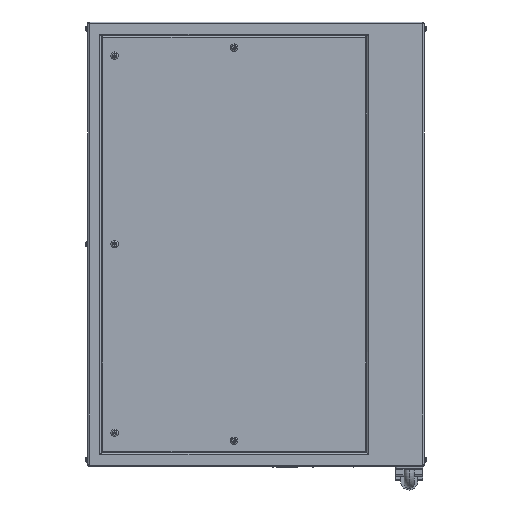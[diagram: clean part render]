
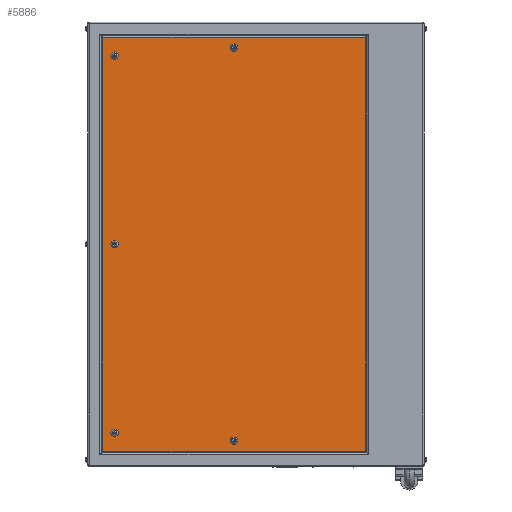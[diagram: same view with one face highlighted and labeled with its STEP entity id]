
A CAD part, left-side view. The second image highlights one B-rep face of the part: STEP entity #5886.
In plain terms, the highlighted planar face has unit normal (-1, 0, 0).
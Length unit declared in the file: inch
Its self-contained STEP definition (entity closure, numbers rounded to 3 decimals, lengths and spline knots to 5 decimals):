
#4 = DIRECTION ( 'NONE',  ( 0., 0., -1. ) ) ;
#709 = CARTESIAN_POINT ( 'NONE',  ( -14., 3.25, -29.74 ) ) ;
#716 = DIRECTION ( 'NONE',  ( 1., 0., 0. ) ) ;
#827 = AXIS2_PLACEMENT_3D ( 'NONE', #23221, #6636, #2305 ) ;
#894 = DIRECTION ( 'NONE',  ( 1., 0., 0. ) ) ;
#1159 = LINE ( 'NONE', #5011, #3837 ) ;
#1249 = CIRCLE ( 'NONE', #827, 0.55 ) ;
#2112 = CARTESIAN_POINT ( 'NONE',  ( -14., 21., -28. ) ) ;
#2305 = DIRECTION ( 'NONE',  ( 0., 0., 1. ) ) ;
#2478 = EDGE_LOOP ( 'NONE', ( #4931, #5821 ) ) ;
#2696 = ORIENTED_EDGE ( 'NONE', *, *, #8051, .T. ) ;
#3025 = AXIS2_PLACEMENT_3D ( 'NONE', #22300, #10832, #5710 ) ;
#3151 = FACE_BOUND ( 'NONE', #19257, .T. ) ;
#3743 = VERTEX_POINT ( 'NONE', #3805 ) ;
#3771 = DIRECTION ( 'NONE',  ( 1., 0., 0. ) ) ;
#3805 = CARTESIAN_POINT ( 'NONE',  ( -14., 3.25, 28.64 ) ) ;
#3816 = EDGE_CURVE ( 'NONE', #15228, #18170, #6371, .T. ) ;
#3837 = VECTOR ( 'NONE', #8798, 39.37008 ) ;
#4029 = DIRECTION ( 'NONE',  ( 1., 0., 0. ) ) ;
#4223 = CARTESIAN_POINT ( 'NONE',  ( -14., -16.24, 30.74 ) ) ;
#4240 = VERTEX_POINT ( 'NONE', #20542 ) ;
#4303 = VERTEX_POINT ( 'NONE', #22442 ) ;
#4458 = EDGE_LOOP ( 'NONE', ( #18200, #5789 ) ) ;
#4514 = CARTESIAN_POINT ( 'NONE',  ( -14., 21., 28. ) ) ;
#4826 = CARTESIAN_POINT ( 'NONE',  ( -14., 25., 30.74 ) ) ;
#4931 = ORIENTED_EDGE ( 'NONE', *, *, #20867, .T. ) ;
#4952 = CARTESIAN_POINT ( 'NONE',  ( -14., 21., -28. ) ) ;
#4959 = VERTEX_POINT ( 'NONE', #8306 ) ;
#5011 = CARTESIAN_POINT ( 'NONE',  ( -14., 22.74, -33. ) ) ;
#5381 = FACE_BOUND ( 'NONE', #9317, .T. ) ;
#5406 = AXIS2_PLACEMENT_3D ( 'NONE', #4952, #18066, #21914 ) ;
#5710 = DIRECTION ( 'NONE',  ( 0., 0., -1. ) ) ;
#5756 = EDGE_LOOP ( 'NONE', ( #5814, #11898, #7070, #8708 ) ) ;
#5789 = ORIENTED_EDGE ( 'NONE', *, *, #15680, .T. ) ;
#5814 = ORIENTED_EDGE ( 'NONE', *, *, #12002, .T. ) ;
#5821 = ORIENTED_EDGE ( 'NONE', *, *, #22672, .T. ) ;
#5886 = ADVANCED_FACE ( 'NONE', ( #3151, #17668, #6848, #5381, #9275, #14620 ), #7210, .F. ) ;
#5974 = ORIENTED_EDGE ( 'NONE', *, *, #3816, .T. ) ;
#6371 = CIRCLE ( 'NONE', #13320, 0.55 ) ;
#6388 = DIRECTION ( 'NONE',  ( 0., 0., 1. ) ) ;
#6451 = ORIENTED_EDGE ( 'NONE', *, *, #13143, .T. ) ;
#6636 = DIRECTION ( 'NONE',  ( 1., 0., 0. ) ) ;
#6793 = ORIENTED_EDGE ( 'NONE', *, *, #11744, .T. ) ;
#6848 = FACE_BOUND ( 'NONE', #8405, .T. ) ;
#7070 = ORIENTED_EDGE ( 'NONE', *, *, #12319, .T. ) ;
#7207 = VERTEX_POINT ( 'NONE', #13943 ) ;
#7210 = PLANE ( 'NONE',  #9656 ) ;
#8051 = EDGE_CURVE ( 'NONE', #13099, #12638, #14357, .T. ) ;
#8306 = CARTESIAN_POINT ( 'NONE',  ( -14., 21., 0.55 ) ) ;
#8405 = EDGE_LOOP ( 'NONE', ( #2696, #10922 ) ) ;
#8510 = DIRECTION ( 'NONE',  ( 0., -1., 0. ) ) ;
#8708 = ORIENTED_EDGE ( 'NONE', *, *, #8763, .T. ) ;
#8763 = EDGE_CURVE ( 'NONE', #4303, #14052, #1159, .T. ) ;
#8798 = DIRECTION ( 'NONE',  ( 0., 0., -1. ) ) ;
#8951 = EDGE_CURVE ( 'NONE', #12638, #13099, #23244, .T. ) ;
#9039 = CARTESIAN_POINT ( 'NONE',  ( -14., 25., -33. ) ) ;
#9275 = FACE_BOUND ( 'NONE', #4458, .T. ) ;
#9292 = DIRECTION ( 'NONE',  ( 0., 0., -1. ) ) ;
#9317 = EDGE_LOOP ( 'NONE', ( #6451, #15596 ) ) ;
#9656 = AXIS2_PLACEMENT_3D ( 'NONE', #9039, #20315, #21983 ) ;
#10434 = LINE ( 'NONE', #4826, #18419 ) ;
#10488 = CARTESIAN_POINT ( 'NONE',  ( -14., 21., 28.55 ) ) ;
#10584 = LINE ( 'NONE', #13744, #19163 ) ;
#10832 = DIRECTION ( 'NONE',  ( 1., 0., 0. ) ) ;
#10922 = ORIENTED_EDGE ( 'NONE', *, *, #8951, .T. ) ;
#11482 = CARTESIAN_POINT ( 'NONE',  ( -14., 21., 28. ) ) ;
#11706 = EDGE_CURVE ( 'NONE', #4959, #4240, #22987, .T. ) ;
#11744 = EDGE_CURVE ( 'NONE', #18170, #15228, #1249, .T. ) ;
#11866 = CIRCLE ( 'NONE', #20394, 0.55 ) ;
#11898 = ORIENTED_EDGE ( 'NONE', *, *, #16180, .T. ) ;
#11924 = CARTESIAN_POINT ( 'NONE',  ( -14., 21., 0. ) ) ;
#11985 = VERTEX_POINT ( 'NONE', #21465 ) ;
#12002 = EDGE_CURVE ( 'NONE', #14052, #7207, #10584, .T. ) ;
#12021 = VERTEX_POINT ( 'NONE', #19306 ) ;
#12116 = DIRECTION ( 'NONE',  ( 0., 1., 0. ) ) ;
#12319 = EDGE_CURVE ( 'NONE', #24008, #4303, #10434, .T. ) ;
#12638 = VERTEX_POINT ( 'NONE', #22374 ) ;
#12778 = CIRCLE ( 'NONE', #20520, 0.55 ) ;
#12885 = EDGE_CURVE ( 'NONE', #11985, #23867, #11866, .T. ) ;
#12946 = CARTESIAN_POINT ( 'NONE',  ( -14., 3.25, -28.64 ) ) ;
#13099 = VERTEX_POINT ( 'NONE', #23036 ) ;
#13143 = EDGE_CURVE ( 'NONE', #4240, #4959, #13400, .T. ) ;
#13320 = AXIS2_PLACEMENT_3D ( 'NONE', #17459, #716, #6388 ) ;
#13400 = CIRCLE ( 'NONE', #16536, 0.55 ) ;
#13491 = DIRECTION ( 'NONE',  ( 0., 0., -1. ) ) ;
#13744 = CARTESIAN_POINT ( 'NONE',  ( -14., 25., -30.74 ) ) ;
#13943 = CARTESIAN_POINT ( 'NONE',  ( -14., -16.24, -30.74 ) ) ;
#14052 = VERTEX_POINT ( 'NONE', #18905 ) ;
#14357 = CIRCLE ( 'NONE', #5406, 0.55 ) ;
#14620 = FACE_OUTER_BOUND ( 'NONE', #5756, .T. ) ;
#14712 = CIRCLE ( 'NONE', #3025, 0.55 ) ;
#15228 = VERTEX_POINT ( 'NONE', #12946 ) ;
#15410 = LINE ( 'NONE', #21100, #22829 ) ;
#15596 = ORIENTED_EDGE ( 'NONE', *, *, #11706, .T. ) ;
#15680 = EDGE_CURVE ( 'NONE', #23867, #11985, #12778, .T. ) ;
#16180 = EDGE_CURVE ( 'NONE', #7207, #24008, #15410, .T. ) ;
#16438 = AXIS2_PLACEMENT_3D ( 'NONE', #20695, #4029, #4 ) ;
#16536 = AXIS2_PLACEMENT_3D ( 'NONE', #11924, #894, #13491 ) ;
#16577 = CARTESIAN_POINT ( 'NONE',  ( -14., 3.25, 29.19 ) ) ;
#17459 = CARTESIAN_POINT ( 'NONE',  ( -14., 3.25, -29.19 ) ) ;
#17668 = FACE_BOUND ( 'NONE', #2478, .T. ) ;
#17716 = DIRECTION ( 'NONE',  ( 1., 0., 0. ) ) ;
#18066 = DIRECTION ( 'NONE',  ( 1., 0., 0. ) ) ;
#18170 = VERTEX_POINT ( 'NONE', #709 ) ;
#18200 = ORIENTED_EDGE ( 'NONE', *, *, #12885, .T. ) ;
#18419 = VECTOR ( 'NONE', #12116, 39.37008 ) ;
#18522 = AXIS2_PLACEMENT_3D ( 'NONE', #16577, #23930, #9292 ) ;
#18905 = CARTESIAN_POINT ( 'NONE',  ( -14., 22.74, -30.74 ) ) ;
#19056 = DIRECTION ( 'NONE',  ( 0., 0., -1. ) ) ;
#19163 = VECTOR ( 'NONE', #8510, 39.37008 ) ;
#19257 = EDGE_LOOP ( 'NONE', ( #6793, #5974 ) ) ;
#19306 = CARTESIAN_POINT ( 'NONE',  ( -14., 3.25, 29.74 ) ) ;
#19664 = CIRCLE ( 'NONE', #18522, 0.55 ) ;
#20315 = DIRECTION ( 'NONE',  ( 1., 0., 0. ) ) ;
#20394 = AXIS2_PLACEMENT_3D ( 'NONE', #11482, #3771, #22572 ) ;
#20520 = AXIS2_PLACEMENT_3D ( 'NONE', #4514, #22816, #21258 ) ;
#20542 = CARTESIAN_POINT ( 'NONE',  ( -14., 21., -0.55 ) ) ;
#20695 = CARTESIAN_POINT ( 'NONE',  ( -14., 21., 0. ) ) ;
#20867 = EDGE_CURVE ( 'NONE', #3743, #12021, #19664, .T. ) ;
#20946 = AXIS2_PLACEMENT_3D ( 'NONE', #2112, #17716, #19056 ) ;
#21100 = CARTESIAN_POINT ( 'NONE',  ( -14., -16.24, -33. ) ) ;
#21258 = DIRECTION ( 'NONE',  ( 0., 0., -1. ) ) ;
#21465 = CARTESIAN_POINT ( 'NONE',  ( -14., 21., 27.45 ) ) ;
#21914 = DIRECTION ( 'NONE',  ( 0., 0., -1. ) ) ;
#21983 = DIRECTION ( 'NONE',  ( 0., 0., -1. ) ) ;
#22300 = CARTESIAN_POINT ( 'NONE',  ( -14., 3.25, 29.19 ) ) ;
#22374 = CARTESIAN_POINT ( 'NONE',  ( -14., 21., -27.45 ) ) ;
#22442 = CARTESIAN_POINT ( 'NONE',  ( -14., 22.74, 30.74 ) ) ;
#22572 = DIRECTION ( 'NONE',  ( 0., 0., -1. ) ) ;
#22672 = EDGE_CURVE ( 'NONE', #12021, #3743, #14712, .T. ) ;
#22765 = DIRECTION ( 'NONE',  ( 0., 0., 1. ) ) ;
#22816 = DIRECTION ( 'NONE',  ( 1., 0., 0. ) ) ;
#22829 = VECTOR ( 'NONE', #22765, 39.37008 ) ;
#22987 = CIRCLE ( 'NONE', #16438, 0.55 ) ;
#23036 = CARTESIAN_POINT ( 'NONE',  ( -14., 21., -28.55 ) ) ;
#23221 = CARTESIAN_POINT ( 'NONE',  ( -14., 3.25, -29.19 ) ) ;
#23244 = CIRCLE ( 'NONE', #20946, 0.55 ) ;
#23867 = VERTEX_POINT ( 'NONE', #10488 ) ;
#23930 = DIRECTION ( 'NONE',  ( 1., 0., 0. ) ) ;
#24008 = VERTEX_POINT ( 'NONE', #4223 ) ;
